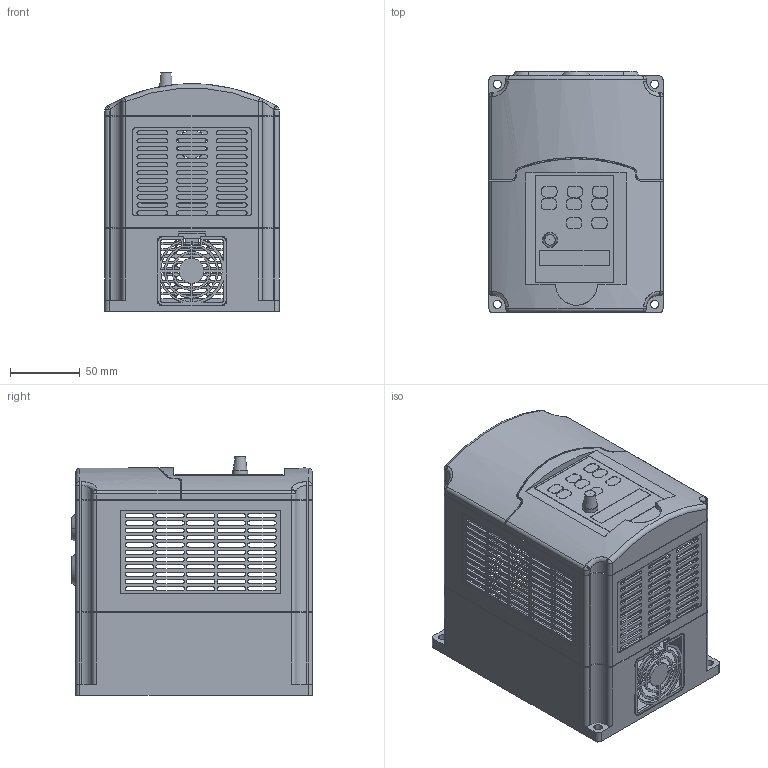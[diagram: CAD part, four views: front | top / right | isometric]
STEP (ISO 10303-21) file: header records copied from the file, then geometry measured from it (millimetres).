
FILE_DESCRIPTION(/* description */ (''),/* implementation_level */ '2;1');
FILE_NAME(/* name */ 'C:/Users/jakob/dev/fablabverket/students/100/web/projects/diy_cnc/source/step/VFD_HY01D523B.step',/* time_stamp */ '2017-05-31T20:15:51+02:00',/* author */ (''),/* organization */ (''),/* preprocessor_version */ 'ST-DEVELOPER v16.13',/* originating_system */ 'Autodesk Translation Framework v6.1.1.50',/* authorisation */ '');
FILE_SCHEMA (('AUTOMOTIVE_DESIGN { 1 0 10303 214 3 1 1 }'));
Products named in the file (2): VFD HY01D523B v2; vfd
Assembly tree (1 placements, depth 2):
  VFD HY01D523B v2
    vfd
Bounding box: 125 x 173 x 171.4 mm (x, y, z)
Surface area: 281481.2 mm2
Topology: 1 solids, 1216 shells, 1221 faces, 6989 edges, 6981 vertices
Faces by surface type: plane 644, cylinder 552, bspline 8, sphere 8, cone 7, torus 2
Full cylindrical faces by diameter (mm): 11 x1
Entity records: 116904 total; most frequent: CARTESIAN_POINT 62751, DIRECTION 9658, ORIENTED_EDGE 6985, VERTEX_POINT 6980, EDGE_CURVE 6980, LINE 4680, VECTOR 4680, AXIS2_PLACEMENT_3D 2489
